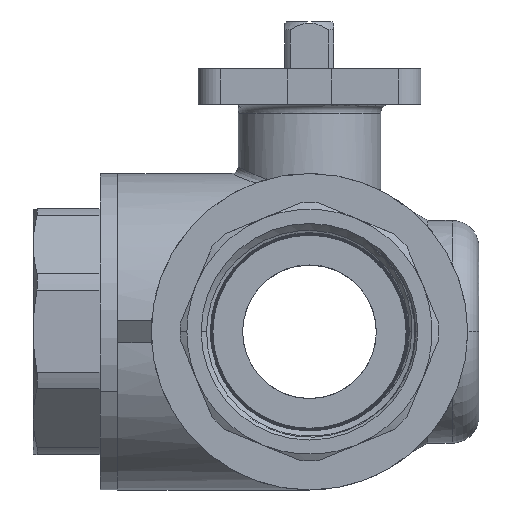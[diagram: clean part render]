
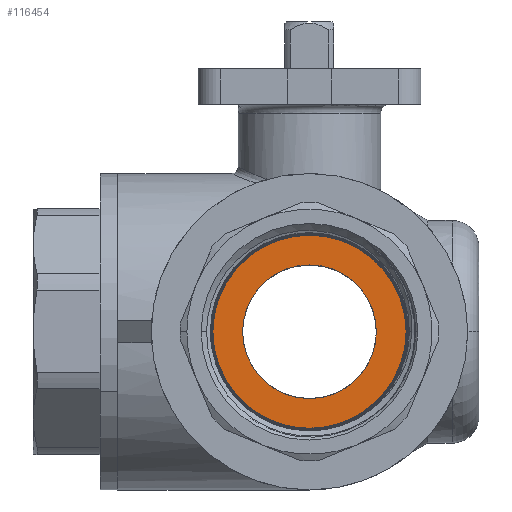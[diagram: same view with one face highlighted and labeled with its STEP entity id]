
A CAD part, left-side view. The second image highlights one B-rep face of the part: STEP entity #116454.
In plain terms, the highlighted planar face has unit normal (-1, 0, 0).
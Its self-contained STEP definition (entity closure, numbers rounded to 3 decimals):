
#103260 = VERTEX_POINT('',#103261);
#103261 = CARTESIAN_POINT('',(-42.764,-20.752,
    -66.438));
#103268 = CYLINDRICAL_SURFACE('',#103269,0.854);
#103269 = AXIS2_PLACEMENT_3D('',#103270,#103271,#103272);
#103270 = CARTESIAN_POINT('',(-42.251,-21.607,
    -66.438));
#103271 = DIRECTION('',(1.,0.,0.));
#103272 = DIRECTION('',(0.,1.,0.));
#103280 = CYLINDRICAL_SURFACE('',#103281,0.854);
#103281 = AXIS2_PLACEMENT_3D('',#103282,#103283,#103284);
#103282 = CARTESIAN_POINT('',(-42.251,-21.607,
    -66.438));
#103283 = DIRECTION('',(1.,0.,0.));
#103284 = DIRECTION('',(0.,1.,0.));
#103292 = EDGE_CURVE('',#103293,#103260,#103295,.T.);
#103293 = VERTEX_POINT('',#103294);
#103294 = CARTESIAN_POINT('',(-42.764,-22.461,
    -66.438));
#103295 = SURFACE_CURVE('',#103296,(#103301,#103308),.PCURVE_S1.);
#103296 = CIRCLE('',#103297,0.854);
#103297 = AXIS2_PLACEMENT_3D('',#103298,#103299,#103300);
#103298 = CARTESIAN_POINT('',(-42.764,-21.607,
    -66.438));
#103299 = DIRECTION('',(1.,0.,0.));
#103300 = DIRECTION('',(0.,1.,0.));
#103301 = PCURVE('',#103268,#103302);
#103302 = DEFINITIONAL_REPRESENTATION('',(#103303),#103307);
#103303 = LINE('',#103304,#103305);
#103304 = CARTESIAN_POINT('',(0.,-0.512));
#103305 = VECTOR('',#103306,1.);
#103306 = DIRECTION('',(1.,0.));
#103307 = ( GEOMETRIC_REPRESENTATION_CONTEXT(2) 
PARAMETRIC_REPRESENTATION_CONTEXT() REPRESENTATION_CONTEXT('2D SPACE',''
  ) );
#103308 = PCURVE('',#103309,#103314);
#103309 = PLANE('',#103310);
#103310 = AXIS2_PLACEMENT_3D('',#103311,#103312,#103313);
#103311 = CARTESIAN_POINT('',(-42.764,-21.607,
    -66.438));
#103312 = DIRECTION('',(-1.,0.,0.));
#103313 = DIRECTION('',(0.,-1.,0.));
#103314 = DEFINITIONAL_REPRESENTATION('',(#103315),#103323);
#103315 = ( BOUNDED_CURVE() B_SPLINE_CURVE(2,(#103316,#103317,#103318,
    #103319,#103320,#103321,#103322),.UNSPECIFIED.,.T.,.F.) 
B_SPLINE_CURVE_WITH_KNOTS((1,2,2,2,2,1),(-2.094,0.,
    2.094,4.189,6.283,8.378),
.UNSPECIFIED.) CURVE() GEOMETRIC_REPRESENTATION_ITEM() 
RATIONAL_B_SPLINE_CURVE((1.,0.5,1.,0.5,1.,0.5,1.)) REPRESENTATION_ITEM(
  '') );
#103316 = CARTESIAN_POINT('',(-0.854,0.));
#103317 = CARTESIAN_POINT('',(-0.854,1.479));
#103318 = CARTESIAN_POINT('',(0.427,0.74));
#103319 = CARTESIAN_POINT('',(1.708,0.));
#103320 = CARTESIAN_POINT('',(0.427,-0.74));
#103321 = CARTESIAN_POINT('',(-0.854,-1.479));
#103322 = CARTESIAN_POINT('',(-0.854,0.));
#103323 = ( GEOMETRIC_REPRESENTATION_CONTEXT(2) 
PARAMETRIC_REPRESENTATION_CONTEXT() REPRESENTATION_CONTEXT('2D SPACE',''
  ) );
#105055 = EDGE_CURVE('',#103260,#103293,#105056,.T.);
#105056 = SURFACE_CURVE('',#105057,(#105062,#105069),.PCURVE_S1.);
#105057 = CIRCLE('',#105058,0.854);
#105058 = AXIS2_PLACEMENT_3D('',#105059,#105060,#105061);
#105059 = CARTESIAN_POINT('',(-42.764,-21.607,
    -66.438));
#105060 = DIRECTION('',(1.,0.,0.));
#105061 = DIRECTION('',(0.,1.,0.));
#105062 = PCURVE('',#103280,#105063);
#105063 = DEFINITIONAL_REPRESENTATION('',(#105064),#105068);
#105064 = LINE('',#105065,#105066);
#105065 = CARTESIAN_POINT('',(0.,-0.512));
#105066 = VECTOR('',#105067,1.);
#105067 = DIRECTION('',(1.,0.));
#105068 = ( GEOMETRIC_REPRESENTATION_CONTEXT(2) 
PARAMETRIC_REPRESENTATION_CONTEXT() REPRESENTATION_CONTEXT('2D SPACE',''
  ) );
#105069 = PCURVE('',#103309,#105070);
#105070 = DEFINITIONAL_REPRESENTATION('',(#105071),#105079);
#105071 = ( BOUNDED_CURVE() B_SPLINE_CURVE(2,(#105072,#105073,#105074,
    #105075,#105076,#105077,#105078),.UNSPECIFIED.,.T.,.F.) 
B_SPLINE_CURVE_WITH_KNOTS((1,2,2,2,2,1),(-2.094,0.,
    2.094,4.189,6.283,8.378),
.UNSPECIFIED.) CURVE() GEOMETRIC_REPRESENTATION_ITEM() 
RATIONAL_B_SPLINE_CURVE((1.,0.5,1.,0.5,1.,0.5,1.)) REPRESENTATION_ITEM(
  '') );
#105072 = CARTESIAN_POINT('',(-0.854,0.));
#105073 = CARTESIAN_POINT('',(-0.854,1.479));
#105074 = CARTESIAN_POINT('',(0.427,0.74));
#105075 = CARTESIAN_POINT('',(1.708,0.));
#105076 = CARTESIAN_POINT('',(0.427,-0.74));
#105077 = CARTESIAN_POINT('',(-0.854,-1.479));
#105078 = CARTESIAN_POINT('',(-0.854,0.));
#105079 = ( GEOMETRIC_REPRESENTATION_CONTEXT(2) 
PARAMETRIC_REPRESENTATION_CONTEXT() REPRESENTATION_CONTEXT('2D SPACE',''
  ) );
#105085 = VERTEX_POINT('',#105086);
#105086 = CARTESIAN_POINT('',(-42.764,-21.016,
    -66.438));
#105095 = CYLINDRICAL_SURFACE('',#105096,0.591);
#105096 = AXIS2_PLACEMENT_3D('',#105097,#105098,#105099);
#105097 = CARTESIAN_POINT('',(-42.251,-21.607,
    -66.438));
#105098 = DIRECTION('',(1.,0.,0.));
#105099 = DIRECTION('',(0.,1.,0.));
#105107 = CYLINDRICAL_SURFACE('',#105108,0.591);
#105108 = AXIS2_PLACEMENT_3D('',#105109,#105110,#105111);
#105109 = CARTESIAN_POINT('',(-42.251,-21.607,
    -66.438));
#105110 = DIRECTION('',(1.,0.,0.));
#105111 = DIRECTION('',(0.,1.,0.));
#105153 = VERTEX_POINT('',#105154);
#105154 = CARTESIAN_POINT('',(-42.764,-22.198,
    -66.438));
#105175 = EDGE_CURVE('',#105153,#105085,#105176,.T.);
#105176 = SURFACE_CURVE('',#105177,(#105182,#105189),.PCURVE_S1.);
#105177 = CIRCLE('',#105178,0.591);
#105178 = AXIS2_PLACEMENT_3D('',#105179,#105180,#105181);
#105179 = CARTESIAN_POINT('',(-42.764,-21.607,
    -66.438));
#105180 = DIRECTION('',(1.,0.,0.));
#105181 = DIRECTION('',(0.,1.,0.));
#105182 = PCURVE('',#105095,#105183);
#105183 = DEFINITIONAL_REPRESENTATION('',(#105184),#105188);
#105184 = LINE('',#105185,#105186);
#105185 = CARTESIAN_POINT('',(0.,-0.512));
#105186 = VECTOR('',#105187,1.);
#105187 = DIRECTION('',(1.,0.));
#105188 = ( GEOMETRIC_REPRESENTATION_CONTEXT(2) 
PARAMETRIC_REPRESENTATION_CONTEXT() REPRESENTATION_CONTEXT('2D SPACE',''
  ) );
#105189 = PCURVE('',#103309,#105190);
#105190 = DEFINITIONAL_REPRESENTATION('',(#105191),#105199);
#105191 = ( BOUNDED_CURVE() B_SPLINE_CURVE(2,(#105192,#105193,#105194,
    #105195,#105196,#105197,#105198),.UNSPECIFIED.,.T.,.F.) 
B_SPLINE_CURVE_WITH_KNOTS((1,2,2,2,2,1),(-2.094,0.,
    2.094,4.189,6.283,8.378),
.UNSPECIFIED.) CURVE() GEOMETRIC_REPRESENTATION_ITEM() 
RATIONAL_B_SPLINE_CURVE((1.,0.5,1.,0.5,1.,0.5,1.)) REPRESENTATION_ITEM(
  '') );
#105192 = CARTESIAN_POINT('',(-0.591,0.));
#105193 = CARTESIAN_POINT('',(-0.591,1.024));
#105194 = CARTESIAN_POINT('',(0.296,0.512));
#105195 = CARTESIAN_POINT('',(1.182,0.));
#105196 = CARTESIAN_POINT('',(0.296,-0.512));
#105197 = CARTESIAN_POINT('',(-0.591,-1.024));
#105198 = CARTESIAN_POINT('',(-0.591,0.));
#105199 = ( GEOMETRIC_REPRESENTATION_CONTEXT(2) 
PARAMETRIC_REPRESENTATION_CONTEXT() REPRESENTATION_CONTEXT('2D SPACE',''
  ) );
#116427 = EDGE_CURVE('',#105085,#105153,#116428,.T.);
#116428 = SURFACE_CURVE('',#116429,(#116434,#116441),.PCURVE_S1.);
#116429 = CIRCLE('',#116430,0.591);
#116430 = AXIS2_PLACEMENT_3D('',#116431,#116432,#116433);
#116431 = CARTESIAN_POINT('',(-42.764,-21.607,
    -66.438));
#116432 = DIRECTION('',(1.,0.,0.));
#116433 = DIRECTION('',(0.,1.,0.));
#116434 = PCURVE('',#105107,#116435);
#116435 = DEFINITIONAL_REPRESENTATION('',(#116436),#116440);
#116436 = LINE('',#116437,#116438);
#116437 = CARTESIAN_POINT('',(0.,-0.512));
#116438 = VECTOR('',#116439,1.);
#116439 = DIRECTION('',(1.,0.));
#116440 = ( GEOMETRIC_REPRESENTATION_CONTEXT(2) 
PARAMETRIC_REPRESENTATION_CONTEXT() REPRESENTATION_CONTEXT('2D SPACE',''
  ) );
#116441 = PCURVE('',#103309,#116442);
#116442 = DEFINITIONAL_REPRESENTATION('',(#116443),#116451);
#116443 = ( BOUNDED_CURVE() B_SPLINE_CURVE(2,(#116444,#116445,#116446,
    #116447,#116448,#116449,#116450),.UNSPECIFIED.,.T.,.F.) 
B_SPLINE_CURVE_WITH_KNOTS((1,2,2,2,2,1),(-2.094,0.,
    2.094,4.189,6.283,8.378),
.UNSPECIFIED.) CURVE() GEOMETRIC_REPRESENTATION_ITEM() 
RATIONAL_B_SPLINE_CURVE((1.,0.5,1.,0.5,1.,0.5,1.)) REPRESENTATION_ITEM(
  '') );
#116444 = CARTESIAN_POINT('',(-0.591,0.));
#116445 = CARTESIAN_POINT('',(-0.591,1.024));
#116446 = CARTESIAN_POINT('',(0.296,0.512));
#116447 = CARTESIAN_POINT('',(1.182,0.));
#116448 = CARTESIAN_POINT('',(0.296,-0.512));
#116449 = CARTESIAN_POINT('',(-0.591,-1.024));
#116450 = CARTESIAN_POINT('',(-0.591,0.));
#116451 = ( GEOMETRIC_REPRESENTATION_CONTEXT(2) 
PARAMETRIC_REPRESENTATION_CONTEXT() REPRESENTATION_CONTEXT('2D SPACE',''
  ) );
#116454 = ADVANCED_FACE('',(#116455,#116459),#103309,.T.);
#116455 = FACE_BOUND('',#116456,.T.);
#116456 = EDGE_LOOP('',(#116457,#116458));
#116457 = ORIENTED_EDGE('',*,*,#116427,.T.);
#116458 = ORIENTED_EDGE('',*,*,#105175,.T.);
#116459 = FACE_BOUND('',#116460,.T.);
#116460 = EDGE_LOOP('',(#116461,#116462));
#116461 = ORIENTED_EDGE('',*,*,#105055,.F.);
#116462 = ORIENTED_EDGE('',*,*,#103292,.F.);
